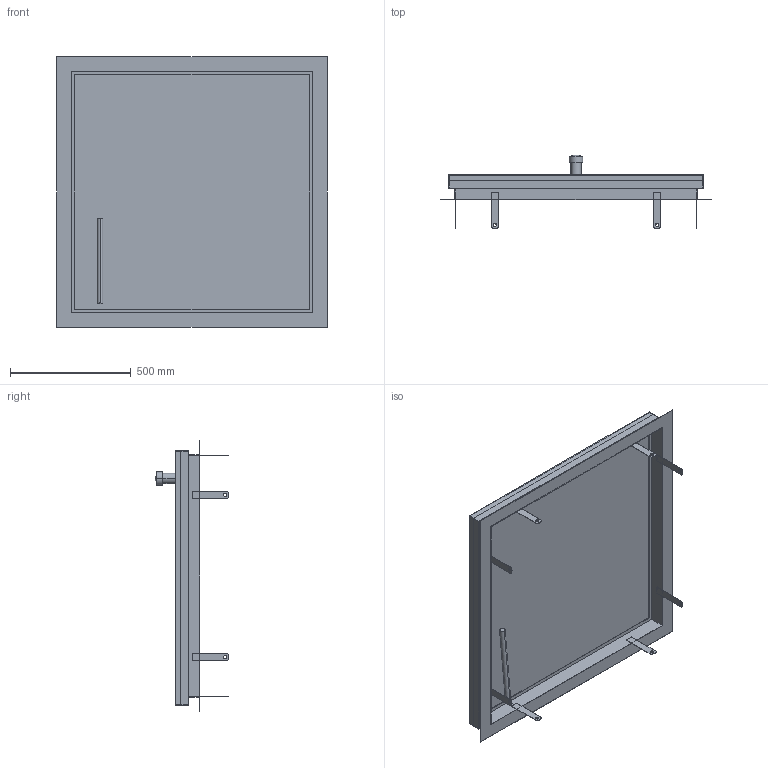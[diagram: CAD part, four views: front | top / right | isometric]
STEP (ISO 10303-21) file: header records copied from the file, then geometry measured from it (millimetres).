
FILE_DESCRIPTION((''),'2;1');
FILE_NAME('017_000105','2017-05-22T',('slc'),('HUBER SE'),'PRO/ENGINEER BY PARAMETRIC TECHNOLOGY CORPORATION, 2015280','PRO/ENGINEER BY PARAMETRIC TECHNOLOGY CORPORATION, 2015280','');
FILE_SCHEMA(('CONFIG_CONTROL_DESIGN'));
Length unit declared in the file: millimetre
Products named in the file (1): 017_000105
Bounding box: 1120 x 304 x 1120 mm (x, y, z)
Volume: 5509224.8 mm3; surface area: 6099412.1 mm2
Topology: 3 solids, 4 shells, 112 faces, 410 edges, 332 vertices
Faces by surface type: plane 80, cylinder 30, sphere 2
Entity records: 4152 total; most frequent: CARTESIAN_POINT 843, DIRECTION 649, ORIENTED_EDGE 560, VECTOR 299, LINE 299, EDGE_CURVE 280, VERTEX_POINT 181, AXIS2_PLACEMENT_3D 175
